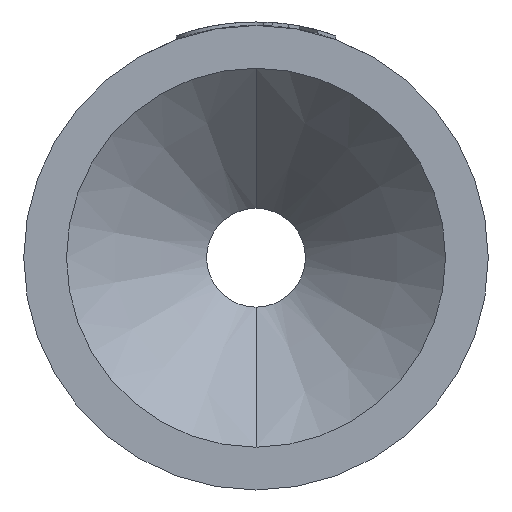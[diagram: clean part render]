
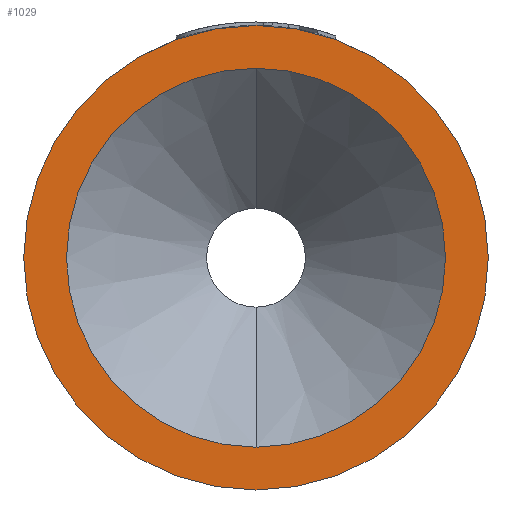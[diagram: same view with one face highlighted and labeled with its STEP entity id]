
A CAD part, left-side view. The second image highlights one B-rep face of the part: STEP entity #1029.
In plain terms, the highlighted planar face has unit normal (-1, 0, 0).
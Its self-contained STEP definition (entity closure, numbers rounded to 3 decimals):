
#44 = DIRECTION ( 'NONE',  ( 0., 0., 1. ) ) ;
#56 = DIRECTION ( 'NONE',  ( -1., 0., 0. ) ) ;
#63 = CARTESIAN_POINT ( 'NONE',  ( 0., 0., 0. ) ) ;
#121 = CIRCLE ( 'NONE', #681, 31.5 ) ;
#165 = DIRECTION ( 'NONE',  ( 0., 0., 1. ) ) ;
#169 = CIRCLE ( 'NONE', #758, 31.5 ) ;
#178 = DIRECTION ( 'NONE',  ( -1., 0., 0. ) ) ;
#186 = CARTESIAN_POINT ( 'NONE',  ( 0., 0., 0. ) ) ;
#326 = ORIENTED_EDGE ( 'NONE', *, *, #3089, .F. ) ;
#406 = AXIS2_PLACEMENT_3D ( 'NONE', #2479, #2467, #2345 ) ;
#520 = VERTEX_POINT ( 'NONE', #1269 ) ;
#613 = FACE_OUTER_BOUND ( 'NONE', #761, .T. ) ;
#637 = DIRECTION ( 'NONE',  ( 0., 0., 1. ) ) ;
#655 = FACE_BOUND ( 'NONE', #3043, .T. ) ;
#680 = ORIENTED_EDGE ( 'NONE', *, *, #2663, .T. ) ;
#681 = AXIS2_PLACEMENT_3D ( 'NONE', #63, #56, #44 ) ;
#735 = EDGE_CURVE ( 'NONE', #2826, #2744, #946, .T. ) ;
#758 = AXIS2_PLACEMENT_3D ( 'NONE', #186, #178, #165 ) ;
#761 = EDGE_LOOP ( 'NONE', ( #680, #3275 ) ) ;
#946 = CIRCLE ( 'NONE', #1133, 25.7 ) ;
#1029 = ADVANCED_FACE ( 'NONE', ( #655, #613 ), #2076, .F. ) ;
#1133 = AXIS2_PLACEMENT_3D ( 'NONE', #3099, #1384, #637 ) ;
#1269 = CARTESIAN_POINT ( 'NONE',  ( 0., 0., 31.5 ) ) ;
#1384 = DIRECTION ( 'NONE',  ( -1., 0., 0. ) ) ;
#1613 = CARTESIAN_POINT ( 'NONE',  ( 0., 0., -31.5 ) ) ;
#1751 = AXIS2_PLACEMENT_3D ( 'NONE', #2047, #2046, #2044 ) ;
#2044 = DIRECTION ( 'NONE',  ( 0., 0., -1. ) ) ;
#2046 = DIRECTION ( 'NONE',  ( 1., 0., 0. ) ) ;
#2047 = CARTESIAN_POINT ( 'NONE',  ( 0., 25.7, 0. ) ) ;
#2076 = PLANE ( 'NONE',  #1751 ) ;
#2077 = ORIENTED_EDGE ( 'NONE', *, *, #735, .F. ) ;
#2161 = CARTESIAN_POINT ( 'NONE',  ( 0., 0., 25.7 ) ) ;
#2345 = DIRECTION ( 'NONE',  ( 0., 0., 1. ) ) ;
#2363 = VERTEX_POINT ( 'NONE', #1613 ) ;
#2467 = DIRECTION ( 'NONE',  ( -1., 0., 0. ) ) ;
#2479 = CARTESIAN_POINT ( 'NONE',  ( 0., 0., 0. ) ) ;
#2663 = EDGE_CURVE ( 'NONE', #520, #2363, #169, .T. ) ;
#2709 = EDGE_CURVE ( 'NONE', #2363, #520, #121, .T. ) ;
#2744 = VERTEX_POINT ( 'NONE', #2161 ) ;
#2826 = VERTEX_POINT ( 'NONE', #3139 ) ;
#3043 = EDGE_LOOP ( 'NONE', ( #326, #2077 ) ) ;
#3089 = EDGE_CURVE ( 'NONE', #2744, #2826, #3137, .T. ) ;
#3099 = CARTESIAN_POINT ( 'NONE',  ( 0., 0., 0. ) ) ;
#3137 = CIRCLE ( 'NONE', #406, 25.7 ) ;
#3139 = CARTESIAN_POINT ( 'NONE',  ( 0., 0., -25.7 ) ) ;
#3275 = ORIENTED_EDGE ( 'NONE', *, *, #2709, .T. ) ;
